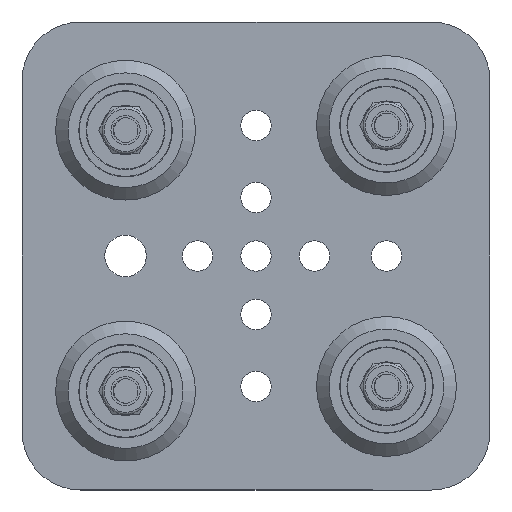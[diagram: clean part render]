
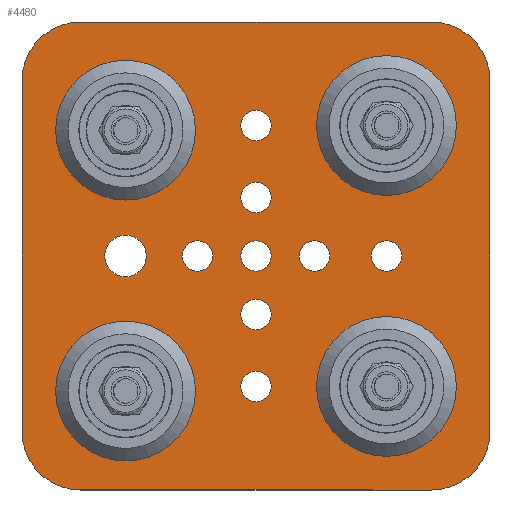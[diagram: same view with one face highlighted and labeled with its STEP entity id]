
A CAD part, front view. The second image highlights one B-rep face of the part: STEP entity #4480.
In plain terms, the highlighted planar face has unit normal (0, -1, 0) as drawn and (0, 0, -1) by its records, which use the part's own axes.
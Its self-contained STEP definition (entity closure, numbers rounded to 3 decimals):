
#496=FACE_BOUND('',#1307,.T.);
#497=FACE_BOUND('',#1308,.T.);
#498=FACE_BOUND('',#1309,.T.);
#499=FACE_BOUND('',#1310,.T.);
#500=FACE_BOUND('',#1311,.T.);
#501=FACE_BOUND('',#1312,.T.);
#502=FACE_BOUND('',#1313,.T.);
#503=FACE_BOUND('',#1314,.T.);
#504=FACE_BOUND('',#1315,.T.);
#505=FACE_BOUND('',#1316,.T.);
#506=FACE_BOUND('',#1317,.T.);
#507=FACE_BOUND('',#1318,.T.);
#508=FACE_BOUND('',#1319,.T.);
#599=PLANE('',#5141);
#993=FACE_OUTER_BOUND('',#1306,.T.);
#1306=EDGE_LOOP('',(#4110,#4111,#4112,#4113,#4114,#4115,#4116,#4117));
#1307=EDGE_LOOP('',(#4118));
#1308=EDGE_LOOP('',(#4119));
#1309=EDGE_LOOP('',(#4120));
#1310=EDGE_LOOP('',(#4121));
#1311=EDGE_LOOP('',(#4122));
#1312=EDGE_LOOP('',(#4123));
#1313=EDGE_LOOP('',(#4124));
#1314=EDGE_LOOP('',(#4125));
#1315=EDGE_LOOP('',(#4126));
#1316=EDGE_LOOP('',(#4127));
#1317=EDGE_LOOP('',(#4128));
#1318=EDGE_LOOP('',(#4129));
#1319=EDGE_LOOP('',(#4130));
#1547=LINE('',#11749,#1768);
#1548=LINE('',#11753,#1769);
#1549=LINE('',#11757,#1770);
#1550=LINE('',#11760,#1771);
#1768=VECTOR('',#6411,1000.);
#1769=VECTOR('',#6414,1000.);
#1770=VECTOR('',#6417,1000.);
#1771=VECTOR('',#6420,1000.);
#1955=CIRCLE('',#5103,2.6);
#1957=CIRCLE('',#5106,2.6);
#1959=CIRCLE('',#5109,2.6);
#1961=CIRCLE('',#5112,2.6);
#1963=CIRCLE('',#5115,2.6);
#1965=CIRCLE('',#5118,3.55);
#1967=CIRCLE('',#5121,3.55);
#1969=CIRCLE('',#5124,3.55);
#1971=CIRCLE('',#5127,2.6);
#1973=CIRCLE('',#5130,2.6);
#1975=CIRCLE('',#5133,2.6);
#1977=CIRCLE('',#5136,2.6);
#1979=CIRCLE('',#5139,2.6);
#1981=CIRCLE('',#5142,10.);
#1982=CIRCLE('',#5143,10.);
#1983=CIRCLE('',#5144,10.);
#1984=CIRCLE('',#5145,10.);
#2339=VERTEX_POINT('',#11667);
#2341=VERTEX_POINT('',#11673);
#2343=VERTEX_POINT('',#11679);
#2345=VERTEX_POINT('',#11685);
#2347=VERTEX_POINT('',#11691);
#2349=VERTEX_POINT('',#11697);
#2351=VERTEX_POINT('',#11703);
#2353=VERTEX_POINT('',#11709);
#2355=VERTEX_POINT('',#11715);
#2357=VERTEX_POINT('',#11721);
#2359=VERTEX_POINT('',#11727);
#2361=VERTEX_POINT('',#11733);
#2363=VERTEX_POINT('',#11739);
#2365=VERTEX_POINT('',#11745);
#2366=VERTEX_POINT('',#11746);
#2367=VERTEX_POINT('',#11748);
#2368=VERTEX_POINT('',#11750);
#2369=VERTEX_POINT('',#11752);
#2370=VERTEX_POINT('',#11754);
#2371=VERTEX_POINT('',#11756);
#2372=VERTEX_POINT('',#11758);
#2919=EDGE_CURVE('',#2339,#2339,#1955,.T.);
#2922=EDGE_CURVE('',#2341,#2341,#1957,.T.);
#2925=EDGE_CURVE('',#2343,#2343,#1959,.T.);
#2928=EDGE_CURVE('',#2345,#2345,#1961,.T.);
#2931=EDGE_CURVE('',#2347,#2347,#1963,.T.);
#2934=EDGE_CURVE('',#2349,#2349,#1965,.T.);
#2937=EDGE_CURVE('',#2351,#2351,#1967,.T.);
#2940=EDGE_CURVE('',#2353,#2353,#1969,.T.);
#2943=EDGE_CURVE('',#2355,#2355,#1971,.T.);
#2946=EDGE_CURVE('',#2357,#2357,#1973,.T.);
#2949=EDGE_CURVE('',#2359,#2359,#1975,.T.);
#2952=EDGE_CURVE('',#2361,#2361,#1977,.T.);
#2955=EDGE_CURVE('',#2363,#2363,#1979,.T.);
#2958=EDGE_CURVE('',#2365,#2366,#1981,.T.);
#2959=EDGE_CURVE('',#2366,#2367,#1547,.T.);
#2960=EDGE_CURVE('',#2367,#2368,#1982,.T.);
#2961=EDGE_CURVE('',#2368,#2369,#1548,.T.);
#2962=EDGE_CURVE('',#2369,#2370,#1983,.T.);
#2963=EDGE_CURVE('',#2370,#2371,#1549,.T.);
#2964=EDGE_CURVE('',#2371,#2372,#1984,.T.);
#2965=EDGE_CURVE('',#2372,#2365,#1550,.T.);
#4110=ORIENTED_EDGE('',*,*,#2958,.T.);
#4111=ORIENTED_EDGE('',*,*,#2959,.T.);
#4112=ORIENTED_EDGE('',*,*,#2960,.T.);
#4113=ORIENTED_EDGE('',*,*,#2961,.T.);
#4114=ORIENTED_EDGE('',*,*,#2962,.T.);
#4115=ORIENTED_EDGE('',*,*,#2963,.T.);
#4116=ORIENTED_EDGE('',*,*,#2964,.T.);
#4117=ORIENTED_EDGE('',*,*,#2965,.T.);
#4118=ORIENTED_EDGE('',*,*,#2955,.F.);
#4119=ORIENTED_EDGE('',*,*,#2949,.F.);
#4120=ORIENTED_EDGE('',*,*,#2943,.F.);
#4121=ORIENTED_EDGE('',*,*,#2937,.F.);
#4122=ORIENTED_EDGE('',*,*,#2931,.F.);
#4123=ORIENTED_EDGE('',*,*,#2925,.F.);
#4124=ORIENTED_EDGE('',*,*,#2919,.F.);
#4125=ORIENTED_EDGE('',*,*,#2922,.F.);
#4126=ORIENTED_EDGE('',*,*,#2928,.F.);
#4127=ORIENTED_EDGE('',*,*,#2934,.F.);
#4128=ORIENTED_EDGE('',*,*,#2940,.F.);
#4129=ORIENTED_EDGE('',*,*,#2946,.F.);
#4130=ORIENTED_EDGE('',*,*,#2952,.F.);
#4480=ADVANCED_FACE('',(#993,#496,#497,#498,#499,#500,#501,#502,#503,#504,
#505,#506,#507,#508),#599,.F.);
#5103=AXIS2_PLACEMENT_3D('',#11668,#6318,#6319);
#5106=AXIS2_PLACEMENT_3D('',#11674,#6325,#6326);
#5109=AXIS2_PLACEMENT_3D('',#11680,#6332,#6333);
#5112=AXIS2_PLACEMENT_3D('',#11686,#6339,#6340);
#5115=AXIS2_PLACEMENT_3D('',#11692,#6346,#6347);
#5118=AXIS2_PLACEMENT_3D('',#11698,#6353,#6354);
#5121=AXIS2_PLACEMENT_3D('',#11704,#6360,#6361);
#5124=AXIS2_PLACEMENT_3D('',#11710,#6367,#6368);
#5127=AXIS2_PLACEMENT_3D('',#11716,#6374,#6375);
#5130=AXIS2_PLACEMENT_3D('',#11722,#6381,#6382);
#5133=AXIS2_PLACEMENT_3D('',#11728,#6388,#6389);
#5136=AXIS2_PLACEMENT_3D('',#11734,#6395,#6396);
#5139=AXIS2_PLACEMENT_3D('',#11740,#6402,#6403);
#5141=AXIS2_PLACEMENT_3D('',#11744,#6407,#6408);
#5142=AXIS2_PLACEMENT_3D('',#11747,#6409,#6410);
#5143=AXIS2_PLACEMENT_3D('',#11751,#6412,#6413);
#5144=AXIS2_PLACEMENT_3D('',#11755,#6415,#6416);
#5145=AXIS2_PLACEMENT_3D('',#11759,#6418,#6419);
#6318=DIRECTION('center_axis',(0.,0.,-1.));
#6319=DIRECTION('ref_axis',(0.,-1.,0.));
#6325=DIRECTION('center_axis',(0.,0.,-1.));
#6326=DIRECTION('ref_axis',(0.,1.,0.));
#6332=DIRECTION('center_axis',(0.,0.,-1.));
#6333=DIRECTION('ref_axis',(0.,1.,0.));
#6339=DIRECTION('center_axis',(0.,0.,-1.));
#6340=DIRECTION('ref_axis',(0.,-1.,0.));
#6346=DIRECTION('center_axis',(0.,0.,-1.));
#6347=DIRECTION('ref_axis',(0.,1.,0.));
#6353=DIRECTION('center_axis',(0.,0.,-1.));
#6354=DIRECTION('ref_axis',(0.,-1.,0.));
#6360=DIRECTION('center_axis',(0.,0.,-1.));
#6361=DIRECTION('ref_axis',(0.,1.,0.));
#6367=DIRECTION('center_axis',(0.,0.,-1.));
#6368=DIRECTION('ref_axis',(0.,1.,0.));
#6374=DIRECTION('center_axis',(0.,0.,-1.));
#6375=DIRECTION('ref_axis',(0.,1.,0.));
#6381=DIRECTION('center_axis',(0.,0.,-1.));
#6382=DIRECTION('ref_axis',(0.,-1.,0.));
#6388=DIRECTION('center_axis',(0.,0.,-1.));
#6389=DIRECTION('ref_axis',(0.,-1.,0.));
#6395=DIRECTION('center_axis',(0.,0.,-1.));
#6396=DIRECTION('ref_axis',(0.,1.,0.));
#6402=DIRECTION('center_axis',(0.,0.,-1.));
#6403=DIRECTION('ref_axis',(0.,1.,0.));
#6407=DIRECTION('center_axis',(0.,0.,1.));
#6408=DIRECTION('ref_axis',(0.,-1.,0.));
#6409=DIRECTION('center_axis',(0.,0.,-1.));
#6410=DIRECTION('ref_axis',(0.,-1.,0.));
#6411=DIRECTION('',(1.,0.,0.));
#6412=DIRECTION('center_axis',(0.,0.,-1.));
#6413=DIRECTION('ref_axis',(0.,1.,0.));
#6414=DIRECTION('',(0.,-1.,0.));
#6415=DIRECTION('center_axis',(0.,0.,-1.));
#6416=DIRECTION('ref_axis',(0.,1.,0.));
#6417=DIRECTION('',(-1.,0.,0.));
#6418=DIRECTION('center_axis',(0.,0.,-1.));
#6419=DIRECTION('ref_axis',(0.,1.,0.));
#6420=DIRECTION('',(0.,1.,0.));
#11667=CARTESIAN_POINT('',(22.3,26.4,-1.5));
#11668=CARTESIAN_POINT('Origin',(22.3,23.8,-1.5));
#11673=CARTESIAN_POINT('',(22.3,4.1,-1.5));
#11674=CARTESIAN_POINT('Origin',(22.3,1.5,-1.5));
#11679=CARTESIAN_POINT('',(22.3,-18.2,-1.5));
#11680=CARTESIAN_POINT('Origin',(22.3,-20.8,-1.5));
#11685=CARTESIAN_POINT('',(0.,26.4,-1.5));
#11686=CARTESIAN_POINT('Origin',(0.,23.8,-1.5));
#11691=CARTESIAN_POINT('',(0.,-18.2,-1.5));
#11692=CARTESIAN_POINT('Origin',(0.,-20.8,-1.5));
#11697=CARTESIAN_POINT('',(-22.3,27.35,-1.5));
#11698=CARTESIAN_POINT('Origin',(-22.3,23.8,-1.5));
#11703=CARTESIAN_POINT('',(-22.3,5.05,-1.5));
#11704=CARTESIAN_POINT('Origin',(-22.3,1.5,-1.5));
#11709=CARTESIAN_POINT('',(-22.3,-17.25,-1.5));
#11710=CARTESIAN_POINT('Origin',(-22.3,-20.8,-1.5));
#11715=CARTESIAN_POINT('',(0.,-5.9,-1.5));
#11716=CARTESIAN_POINT('Origin',(0.,-8.5,
-1.5));
#11721=CARTESIAN_POINT('',(10.,4.1,-1.5));
#11722=CARTESIAN_POINT('Origin',(10.,1.5,-1.5));
#11727=CARTESIAN_POINT('',(-10.,4.1,-1.5));
#11728=CARTESIAN_POINT('Origin',(-10.,1.5,-1.5));
#11733=CARTESIAN_POINT('',(0.,14.1,-1.5));
#11734=CARTESIAN_POINT('Origin',(0.,11.5,-1.5));
#11739=CARTESIAN_POINT('',(0.,4.1,-1.5));
#11740=CARTESIAN_POINT('Origin',(0.,1.5,-1.5));
#11744=CARTESIAN_POINT('Origin',(-30.,31.5,-1.5));
#11745=CARTESIAN_POINT('',(-40.,31.5,-1.5));
#11746=CARTESIAN_POINT('',(-30.,41.5,-1.5));
#11747=CARTESIAN_POINT('Origin',(-30.,31.5,-1.5));
#11748=CARTESIAN_POINT('',(30.,41.5,-1.5));
#11749=CARTESIAN_POINT('',(30.,41.5,-1.5));
#11750=CARTESIAN_POINT('',(40.,31.5,-1.5));
#11751=CARTESIAN_POINT('Origin',(30.,31.5,-1.5));
#11752=CARTESIAN_POINT('',(40.,-28.5,-1.5));
#11753=CARTESIAN_POINT('',(40.,31.5,-1.5));
#11754=CARTESIAN_POINT('',(30.,-38.5,-1.5));
#11755=CARTESIAN_POINT('Origin',(30.,-28.5,-1.5));
#11756=CARTESIAN_POINT('',(-30.,-38.5,-1.5));
#11757=CARTESIAN_POINT('',(30.,-38.5,-1.5));
#11758=CARTESIAN_POINT('',(-40.,-28.5,-1.5));
#11759=CARTESIAN_POINT('Origin',(-30.,-28.5,-1.5));
#11760=CARTESIAN_POINT('',(-40.,31.5,-1.5));
